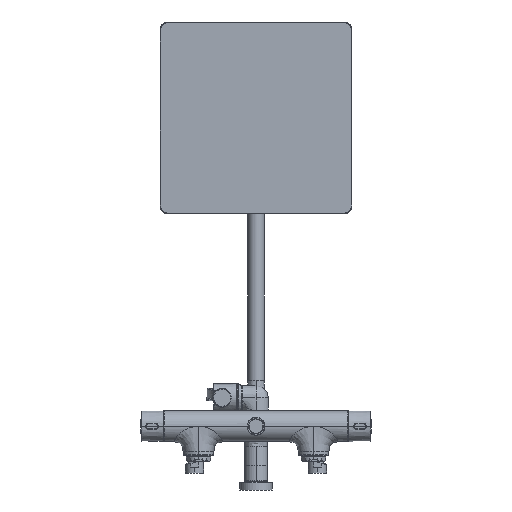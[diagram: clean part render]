
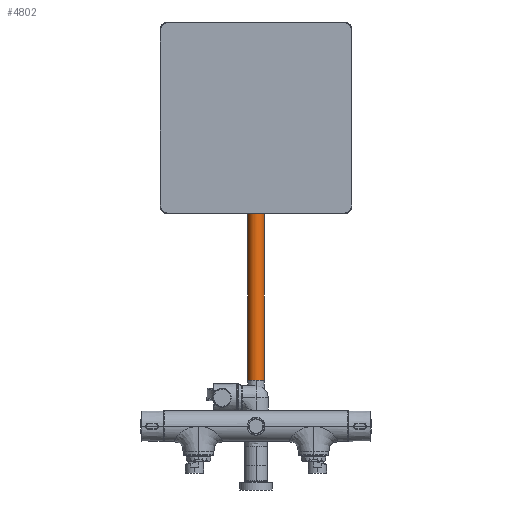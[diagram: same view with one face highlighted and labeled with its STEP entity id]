
A CAD part, front view. The second image highlights one B-rep face of the part: STEP entity #4802.
In plain terms, the highlighted cylindrical face has radius 11 mm (diameter 22 mm), a partial arc.
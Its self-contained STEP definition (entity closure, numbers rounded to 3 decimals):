
#659 = CARTESIAN_POINT ( 'NONE',  ( 11., 1192.487, 389.5 ) ) ;
#1994 = CARTESIAN_POINT ( 'NONE',  ( 0., 1192.487, 389.5 ) ) ;
#3406 = EDGE_CURVE ( 'NONE', #41502, #6505, #17166, .T. ) ;
#3456 = DIRECTION ( 'NONE',  ( 0., 0., 1. ) ) ;
#4607 = EDGE_CURVE ( 'NONE', #6505, #9420, #12284, .T. ) ;
#4802 = ADVANCED_FACE ( 'NONE', ( #19219 ), #11151, .T. ) ;
#6505 = VERTEX_POINT ( 'NONE', #659 ) ;
#7148 = AXIS2_PLACEMENT_3D ( 'NONE', #1994, #43675, #22852 ) ;
#7944 = VECTOR ( 'NONE', #8489, 1000. ) ;
#8489 = DIRECTION ( 'NONE',  ( 0., 0., 1. ) ) ;
#9420 = VERTEX_POINT ( 'NONE', #33692 ) ;
#10460 = EDGE_CURVE ( 'NONE', #14915, #41502, #14877, .T. ) ;
#11008 = DIRECTION ( 'NONE',  ( 0., 0., 1. ) ) ;
#11151 = CYLINDRICAL_SURFACE ( 'NONE', #28646, 11. ) ;
#12284 = CIRCLE ( 'NONE', #7148, 11. ) ;
#13649 = CIRCLE ( 'NONE', #15916, 11. ) ;
#14472 = DIRECTION ( 'NONE',  ( 1., 0., 0. ) ) ;
#14520 = CARTESIAN_POINT ( 'NONE',  ( 0., 1181.487, 60. ) ) ;
#14877 = CIRCLE ( 'NONE', #25891, 11. ) ;
#14915 = VERTEX_POINT ( 'NONE', #14520 ) ;
#15916 = AXIS2_PLACEMENT_3D ( 'NONE', #38618, #11008, #14472 ) ;
#16064 = DIRECTION ( 'NONE',  ( 1., 0., 0. ) ) ;
#17166 = LINE ( 'NONE', #25758, #7944 ) ;
#17225 = DIRECTION ( 'NONE',  ( 1., 0., 0. ) ) ;
#19219 = FACE_OUTER_BOUND ( 'NONE', #38567, .T. ) ;
#19541 = EDGE_CURVE ( 'NONE', #30440, #14915, #13649, .T. ) ;
#22852 = DIRECTION ( 'NONE',  ( 0., 1., 0. ) ) ;
#23323 = DIRECTION ( 'NONE',  ( 0., 0., 1. ) ) ;
#23514 = VECTOR ( 'NONE', #23323, 1000. ) ;
#25758 = CARTESIAN_POINT ( 'NONE',  ( 11., 1192.487, 60. ) ) ;
#25891 = AXIS2_PLACEMENT_3D ( 'NONE', #28006, #3456, #17225 ) ;
#25897 = CARTESIAN_POINT ( 'NONE',  ( 11., 1192.487, 60. ) ) ;
#28006 = CARTESIAN_POINT ( 'NONE',  ( 0., 1192.487, 60. ) ) ;
#28075 = ORIENTED_EDGE ( 'NONE', *, *, #10460, .T. ) ;
#28646 = AXIS2_PLACEMENT_3D ( 'NONE', #37006, #44121, #16064 ) ;
#29512 = LINE ( 'NONE', #33390, #23514 ) ;
#30440 = VERTEX_POINT ( 'NONE', #40736 ) ;
#32249 = ORIENTED_EDGE ( 'NONE', *, *, #3406, .T. ) ;
#33390 = CARTESIAN_POINT ( 'NONE',  ( -11., 1192.487, 60. ) ) ;
#33692 = CARTESIAN_POINT ( 'NONE',  ( -11., 1192.487, 389.5 ) ) ;
#35332 = EDGE_CURVE ( 'NONE', #30440, #9420, #29512, .T. ) ;
#35701 = ORIENTED_EDGE ( 'NONE', *, *, #4607, .T. ) ;
#37006 = CARTESIAN_POINT ( 'NONE',  ( 0., 1192.487, 60. ) ) ;
#38308 = ORIENTED_EDGE ( 'NONE', *, *, #19541, .T. ) ;
#38567 = EDGE_LOOP ( 'NONE', ( #42045, #38308, #28075, #32249, #35701 ) ) ;
#38618 = CARTESIAN_POINT ( 'NONE',  ( 0., 1192.487, 60. ) ) ;
#40736 = CARTESIAN_POINT ( 'NONE',  ( -11., 1192.487, 60. ) ) ;
#41502 = VERTEX_POINT ( 'NONE', #25897 ) ;
#42045 = ORIENTED_EDGE ( 'NONE', *, *, #35332, .F. ) ;
#43675 = DIRECTION ( 'NONE',  ( 0., 0., -1. ) ) ;
#44121 = DIRECTION ( 'NONE',  ( 0., 0., 1. ) ) ;
